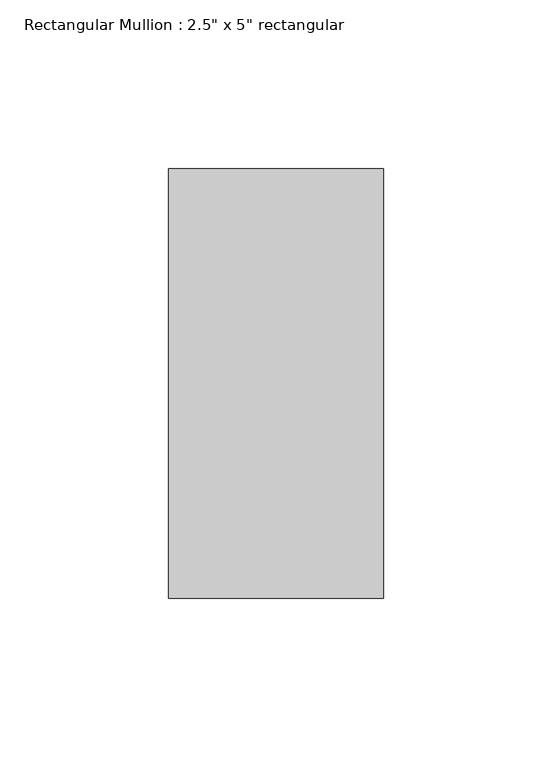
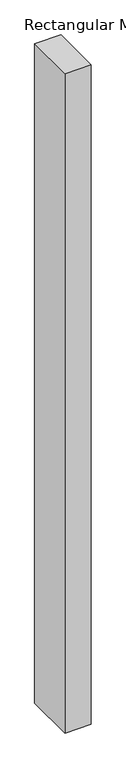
"""IFC4 building model written with IfcOpenShell, lengths in millimetres: member geometry."""

from ifc_helpers import new_model, si_unit, frame, origin, place, context, project, spatial, polyline, outline, extrude, source, transform, mapped, element, save


def member_9fe7059d(model_context):
    return source(origin(), model_context, "Body", "SweptSolid", [
        extrude(outline(polyline([(31.75, 63.5), (31.75, -63.5), (-31.75, -63.5), (-31.75, 63.5), (31.75, 63.5)])), frame((0.0, 0.0, -1695.45), z_axis=(0.0, 0.0, 1.0), x_axis=(1.0, 0.0, 0.0)), (0.0, 0.0, 1.0), 1695.45),
    ])


if __name__ == "__main__":
    model = new_model("IFC4")
    model_context = context("Model", 3, world=origin())
    ifc_project = project(units=[si_unit("LENGTHUNIT", "METRE", prefix="MILLI")], contexts=[model_context])
    site = spatial("IfcSite", under=ifc_project)
    building = spatial("IfcBuilding", under=site)
    placement = place(None, origin())
    member_shape = member_9fe7059d(model_context)
    element("IfcMember", 1, ObjectType="Rectangular Mullion : 2.5\" x 5\" rectangular", at=placement, inside=building, context=model_context, shape_type="MappedRepresentation", body=[
        mapped(member_shape, transform((0.0, 0.0, 0.0), x_axis=(1.0, 0.0, 0.0), y_axis=(0.0, 1.0, 0.0), z_axis=(0.0, 0.0, 1.0))),
    ])
    save(model, "model.ifc")
